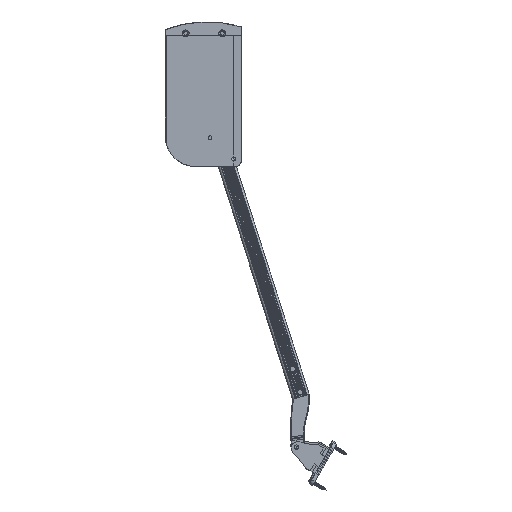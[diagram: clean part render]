
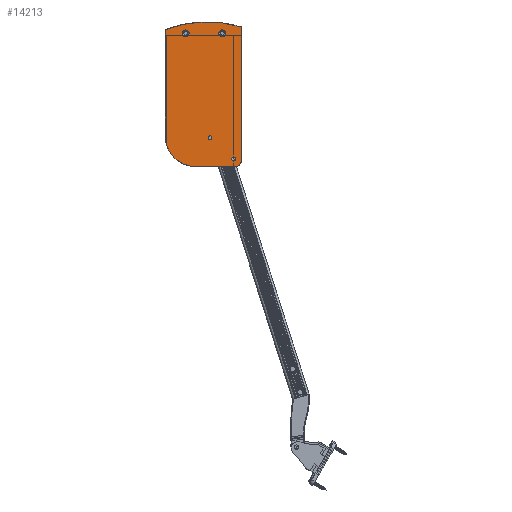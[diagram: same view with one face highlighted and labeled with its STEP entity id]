
A CAD part, left-side view. The second image highlights one B-rep face of the part: STEP entity #14213.
In plain terms, the highlighted planar face has unit normal (-1, 0, 0) as drawn and (0, 0, 1) by its records, which use the part's own axes.
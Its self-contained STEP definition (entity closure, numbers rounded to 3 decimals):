
#172=FACE_BOUND('',#1626,.T.);
#173=FACE_BOUND('',#1627,.T.);
#174=FACE_BOUND('',#1628,.T.);
#175=FACE_BOUND('',#1629,.T.);
#386=PLANE('',#15151);
#806=FACE_OUTER_BOUND('',#1625,.T.);
#1625=EDGE_LOOP('',(#10107,#10108,#10109,#10110,#10111,#10112));
#1626=EDGE_LOOP('',(#10113));
#1627=EDGE_LOOP('',(#10114));
#1628=EDGE_LOOP('',(#10115));
#1629=EDGE_LOOP('',(#10116));
#2425=CIRCLE('',#15142,4.5);
#2432=CIRCLE('',#15152,156.848);
#2433=CIRCLE('',#15153,40.);
#2434=CIRCLE('',#15154,8.);
#2435=CIRCLE('',#15155,4.5);
#2436=CIRCLE('',#15156,2.5);
#2437=CIRCLE('',#15157,2.5);
#3505=LINE('',#22630,#4576);
#3506=LINE('',#22634,#4577);
#3507=LINE('',#22638,#4578);
#4576=VECTOR('',#17017,10.);
#4577=VECTOR('',#17020,10.);
#4578=VECTOR('',#17023,10.);
#5895=VERTEX_POINT('',#22572);
#5915=VERTEX_POINT('',#22628);
#5916=VERTEX_POINT('',#22629);
#5917=VERTEX_POINT('',#22631);
#5918=VERTEX_POINT('',#22633);
#5919=VERTEX_POINT('',#22635);
#5920=VERTEX_POINT('',#22637);
#5921=VERTEX_POINT('',#22640);
#5922=VERTEX_POINT('',#22642);
#5923=VERTEX_POINT('',#22644);
#7488=EDGE_CURVE('',#5895,#5895,#2425,.T.);
#7511=EDGE_CURVE('',#5915,#5916,#3505,.T.);
#7512=EDGE_CURVE('',#5916,#5917,#2432,.T.);
#7513=EDGE_CURVE('',#5917,#5918,#3506,.T.);
#7514=EDGE_CURVE('',#5918,#5919,#2433,.T.);
#7515=EDGE_CURVE('',#5919,#5920,#3507,.T.);
#7516=EDGE_CURVE('',#5920,#5915,#2434,.T.);
#7517=EDGE_CURVE('',#5921,#5921,#2435,.T.);
#7518=EDGE_CURVE('',#5922,#5922,#2436,.T.);
#7519=EDGE_CURVE('',#5923,#5923,#2437,.T.);
#10107=ORIENTED_EDGE('',*,*,#7511,.T.);
#10108=ORIENTED_EDGE('',*,*,#7512,.T.);
#10109=ORIENTED_EDGE('',*,*,#7513,.T.);
#10110=ORIENTED_EDGE('',*,*,#7514,.T.);
#10111=ORIENTED_EDGE('',*,*,#7515,.T.);
#10112=ORIENTED_EDGE('',*,*,#7516,.T.);
#10113=ORIENTED_EDGE('',*,*,#7517,.F.);
#10114=ORIENTED_EDGE('',*,*,#7518,.T.);
#10115=ORIENTED_EDGE('',*,*,#7519,.T.);
#10116=ORIENTED_EDGE('',*,*,#7488,.F.);
#14213=ADVANCED_FACE('',(#806,#172,#173,#174,#175),#386,.T.);
#15142=AXIS2_PLACEMENT_3D('',#22573,#16986,#16987);
#15151=AXIS2_PLACEMENT_3D('',#22627,#17015,#17016);
#15152=AXIS2_PLACEMENT_3D('',#22632,#17018,#17019);
#15153=AXIS2_PLACEMENT_3D('',#22636,#17021,#17022);
#15154=AXIS2_PLACEMENT_3D('',#22639,#17024,#17025);
#15155=AXIS2_PLACEMENT_3D('',#22641,#17026,#17027);
#15156=AXIS2_PLACEMENT_3D('',#22643,#17028,#17029);
#15157=AXIS2_PLACEMENT_3D('',#22645,#17030,#17031);
#16986=DIRECTION('center_axis',(0.,0.,1.));
#16987=DIRECTION('ref_axis',(-1.,0.,0.));
#17015=DIRECTION('center_axis',(0.,0.,1.));
#17016=DIRECTION('ref_axis',(1.,0.,0.));
#17017=DIRECTION('',(0.,1.,0.));
#17018=DIRECTION('center_axis',(0.,0.,1.));
#17019=DIRECTION('ref_axis',(0.285,0.958,0.));
#17020=DIRECTION('',(0.,-1.,0.));
#17021=DIRECTION('center_axis',(0.,0.,1.));
#17022=DIRECTION('ref_axis',(-1.,0.,0.));
#17023=DIRECTION('',(1.,0.,0.));
#17024=DIRECTION('center_axis',(0.,0.,1.));
#17025=DIRECTION('ref_axis',(0.,-1.,0.));
#17026=DIRECTION('center_axis',(0.,0.,1.));
#17027=DIRECTION('ref_axis',(-1.,0.,0.));
#17028=DIRECTION('center_axis',(0.,0.,-1.));
#17029=DIRECTION('ref_axis',(-1.,0.,0.));
#17030=DIRECTION('center_axis',(0.,0.,-1.));
#17031=DIRECTION('ref_axis',(-1.,0.,0.));
#22572=CARTESIAN_POINT('',(-68.5,175.,24.));
#22573=CARTESIAN_POINT('Origin',(-73.,175.,24.));
#22627=CARTESIAN_POINT('Origin',(-78.751,132.099,24.));
#22628=CARTESIAN_POINT('',(0.,8.,24.));
#22629=CARTESIAN_POINT('',(0.,183.487,24.));
#22630=CARTESIAN_POINT('',(0.,8.,24.));
#22631=CARTESIAN_POINT('',(-100.,179.938,24.));
#22632=CARTESIAN_POINT('Origin',(-44.728,33.152,24.));
#22633=CARTESIAN_POINT('',(-100.,40.,24.));
#22634=CARTESIAN_POINT('',(-100.,179.938,24.));
#22635=CARTESIAN_POINT('',(-60.,0.,24.));
#22636=CARTESIAN_POINT('Origin',(-60.,40.,24.));
#22637=CARTESIAN_POINT('',(-8.,0.,24.));
#22638=CARTESIAN_POINT('',(-60.,0.,24.));
#22639=CARTESIAN_POINT('Origin',(-8.,8.,24.));
#22640=CARTESIAN_POINT('',(-20.5,175.,24.));
#22641=CARTESIAN_POINT('Origin',(-25.,175.,24.));
#22642=CARTESIAN_POINT('',(-7.5,10.,24.));
#22643=CARTESIAN_POINT('Origin',(-10.,10.,24.));
#22644=CARTESIAN_POINT('',(-38.5,38.,24.));
#22645=CARTESIAN_POINT('Origin',(-41.,38.,24.));
